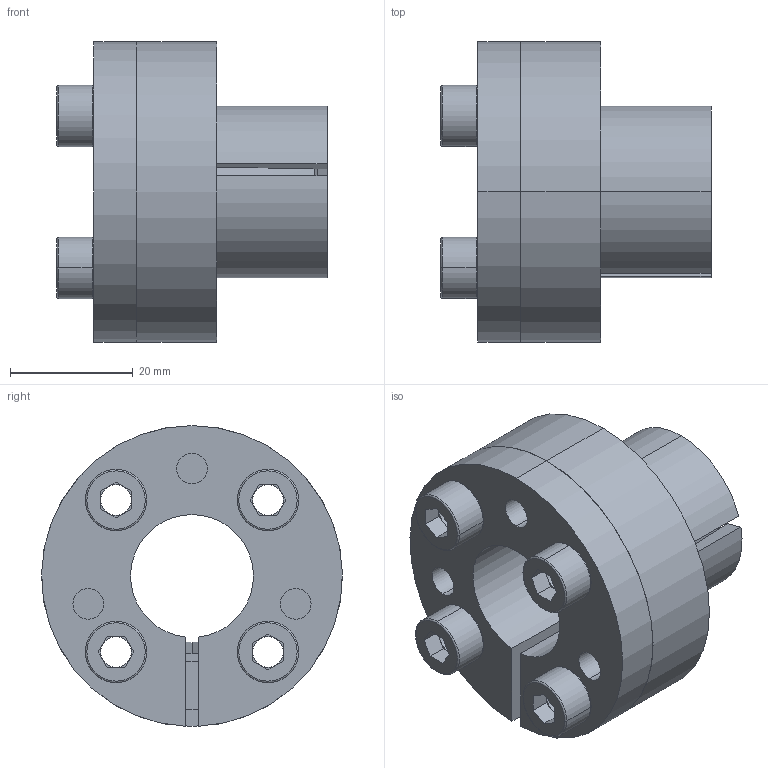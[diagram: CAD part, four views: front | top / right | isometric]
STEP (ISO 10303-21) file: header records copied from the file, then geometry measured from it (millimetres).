
FILE_DESCRIPTION (( 'STEP AP203' ), '1' );
FILE_NAME ('T-20-28.STEP', '2017-10-13T08:12:16', ( 'MYCOM' ), ( '' ), 'SwSTEP 2.0', 'SolidWorks 2015', '' );
FILE_SCHEMA (( 'CONFIG_CONTROL_DESIGN' ));
Length unit declared in the file: millimetre
Products named in the file (1): T-20-28
Bounding box: 44 x 49 x 49 mm (x, y, z)
Surface area: 21066.5 mm2 (no closed solid volume)
Topology: 0 solids, 7 shells, 127 faces, 335 edges, 212 vertices
Faces by surface type: plane 59, cylinder 47, torus 16, cone 5
Entity records: 4035 total; most frequent: DIRECTION 753, CARTESIAN_POINT 693, ORIENTED_EDGE 605, EDGE_CURVE 335, AXIS2_PLACEMENT_3D 294, VERTEX_POINT 212, CIRCLE 166, LINE 165
